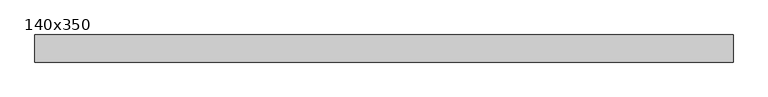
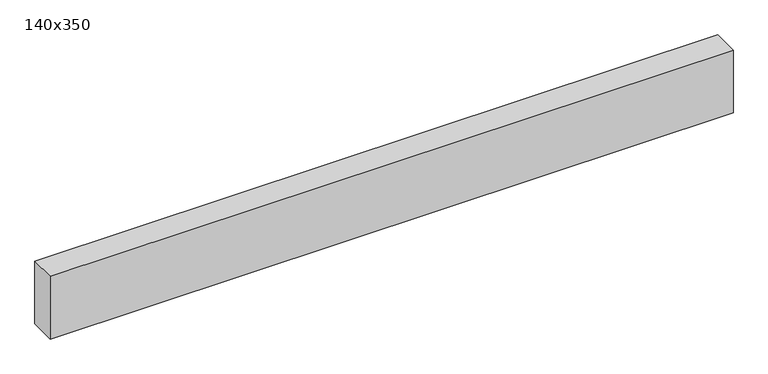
"""IFC4 building model written with IfcOpenShell, lengths in millimetres: beam geometry, Bjelke Limtre Stiplet : 140x350."""

from ifc_helpers import new_model, si_unit, frame, origin, place, context, project, spatial, polyline, outline, extrude, source, transform, mapped, element, save


def beam_140x350_061f88dd(model_context):
    return source(origin(), model_context, "Body", "SweptSolid", [
        extrude(outline(polyline([(1800.8575696, 70.0), (1800.8575696, -70.0), (-1800.8575696, -70.0), (-1800.8575696, 70.0), (1800.8575696, 70.0)])), frame((0.0, 0.0, -301.0), z_axis=(0.0, 0.0, 1.0), x_axis=(1.0, 0.0, 0.0)), (0.0, 0.0, 1.0), 350.0),
    ])


if __name__ == "__main__":
    model = new_model("IFC4")
    model_context = context("Model", 3, world=origin())
    ifc_project = project(units=[si_unit("LENGTHUNIT", "METRE", prefix="MILLI")], contexts=[model_context])
    site = spatial("IfcSite", under=ifc_project)
    building = spatial("IfcBuilding", under=site)
    placement = place(None, origin())
    beam_140x350_shape = beam_140x350_061f88dd(model_context)
    element("IfcBeam", 1, ObjectType="Bjelke Limtre Stiplet : 140x350", at=placement, inside=building, context=model_context, shape_type="MappedRepresentation", body=[
        mapped(beam_140x350_shape, transform((0.0, 0.0, 0.0), x_axis=(1.0, 0.0, 0.0), y_axis=(0.0, 1.0, 0.0), z_axis=(0.0, 0.0, 1.0))),
    ])
    save(model, "model.ifc")
